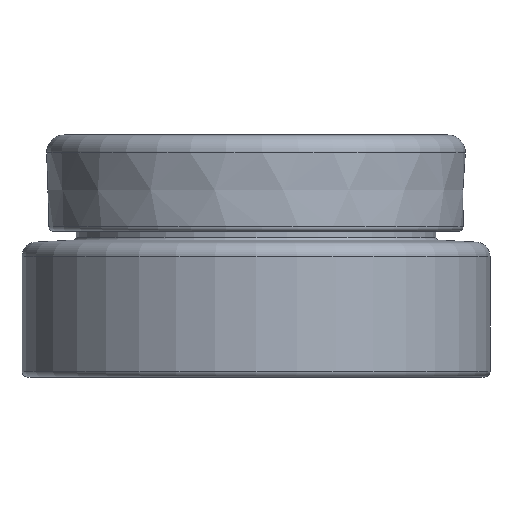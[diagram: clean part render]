
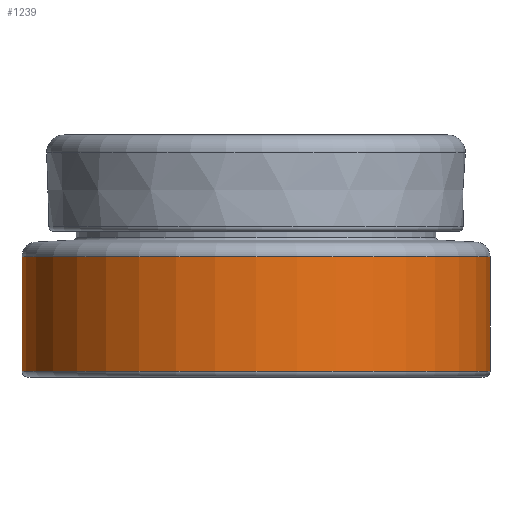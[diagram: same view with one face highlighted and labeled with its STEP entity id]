
A CAD part, front view. The second image highlights one B-rep face of the part: STEP entity #1239.
In plain terms, the highlighted cylindrical face has radius 80.237 mm (diameter 160.475 mm), a full revolution.
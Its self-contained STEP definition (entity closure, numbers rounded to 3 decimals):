
#161=CYLINDRICAL_SURFACE($,#1338,80.238);
#223=FACE_BOUND($,#350,.T.);
#261=FACE_OUTER_BOUND($,#349,.T.);
#349=EDGE_LOOP($,(#877));
#350=EDGE_LOOP($,(#878));
#458=CIRCLE($,#1337,80.238);
#459=CIRCLE($,#1339,80.238);
#568=VERTEX_POINT($,#2007);
#569=VERTEX_POINT($,#2010);
#694=EDGE_CURVE($,#568,#568,#458,.T.);
#695=EDGE_CURVE($,#569,#569,#459,.T.);
#877=ORIENTED_EDGE($,*,*,#694,.T.);
#878=ORIENTED_EDGE($,*,*,#695,.F.);
#1239=ADVANCED_FACE($,(#261,#223),#161,.T.);
#1337=AXIS2_PLACEMENT_3D($,#2008,#1555,#1556);
#1338=AXIS2_PLACEMENT_3D($,#2009,#1557,#1558);
#1339=AXIS2_PLACEMENT_3D($,#2011,#1559,#1560);
#1555=DIRECTION('center_axis',(0.,1.,0.));
#1556=DIRECTION('ref_axis',(1.,0.,0.));
#1557=DIRECTION('center_axis',(0.,1.,0.));
#1558=DIRECTION('ref_axis',(-1.,0.,0.));
#1559=DIRECTION('center_axis',(0.,1.,0.));
#1560=DIRECTION('ref_axis',(1.,0.,0.));
#2007=CARTESIAN_POINT('',(-80.238,2.,0.));
#2008=CARTESIAN_POINT('Origin',(0.,2.,0.));
#2009=CARTESIAN_POINT('Origin',(0.,21.631,0.));
#2010=CARTESIAN_POINT('',(-80.238,41.262,0.));
#2011=CARTESIAN_POINT('Origin',(0.,41.262,0.));
